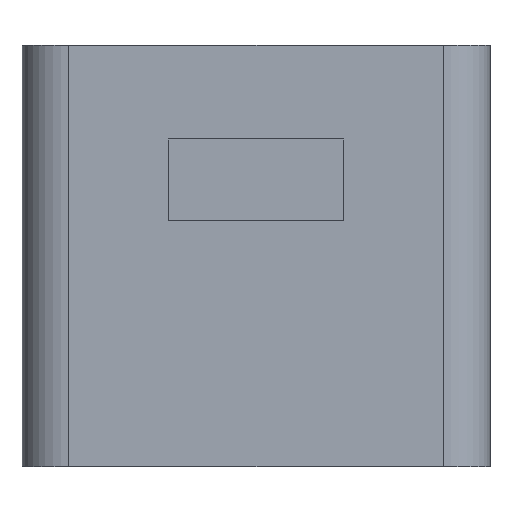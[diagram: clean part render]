
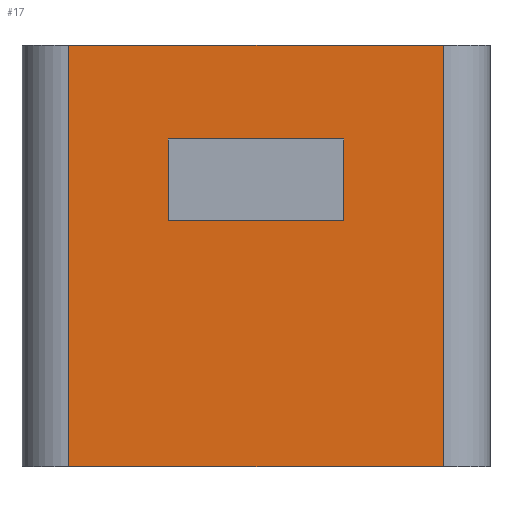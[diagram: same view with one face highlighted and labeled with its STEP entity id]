
A CAD part, left-side view. The second image highlights one B-rep face of the part: STEP entity #17.
In plain terms, the highlighted planar face has unit normal (-1, 0, 0).
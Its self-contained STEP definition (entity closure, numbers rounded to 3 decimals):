
#17 = ADVANCED_FACE('',(#18,#137),#32,.F.);
#18 = FACE_BOUND('',#19,.F.);
#19 = EDGE_LOOP('',(#20,#55,#83,#111));
#20 = ORIENTED_EDGE('',*,*,#21,.F.);
#21 = EDGE_CURVE('',#22,#24,#26,.T.);
#22 = VERTEX_POINT('',#23);
#23 = CARTESIAN_POINT('',(-21.,-8.,9.));
#24 = VERTEX_POINT('',#25);
#25 = CARTESIAN_POINT('',(-21.,8.,9.));
#26 = SURFACE_CURVE('',#27,(#31,#43),.PCURVE_S1.);
#27 = LINE('',#28,#29);
#28 = CARTESIAN_POINT('',(-21.,-10.,9.));
#29 = VECTOR('',#30,1.);
#30 = DIRECTION('',(-0.,1.,0.));
#31 = PCURVE('',#32,#37);
#32 = PLANE('',#33);
#33 = AXIS2_PLACEMENT_3D('',#34,#35,#36);
#34 = CARTESIAN_POINT('',(-21.,-10.,-9.));
#35 = DIRECTION('',(1.,0.,-0.));
#36 = DIRECTION('',(0.,0.,1.));
#37 = DEFINITIONAL_REPRESENTATION('',(#38),#42);
#38 = LINE('',#39,#40);
#39 = CARTESIAN_POINT('',(18.,0.));
#40 = VECTOR('',#41,1.);
#41 = DIRECTION('',(0.,-1.));
#42 = ( GEOMETRIC_REPRESENTATION_CONTEXT(2) 
PARAMETRIC_REPRESENTATION_CONTEXT() REPRESENTATION_CONTEXT('2D SPACE',''
  ) );
#43 = PCURVE('',#44,#49);
#44 = PLANE('',#45);
#45 = AXIS2_PLACEMENT_3D('',#46,#47,#48);
#46 = CARTESIAN_POINT('',(-21.,-10.,9.));
#47 = DIRECTION('',(0.,0.,1.));
#48 = DIRECTION('',(1.,0.,-0.));
#49 = DEFINITIONAL_REPRESENTATION('',(#50),#54);
#50 = LINE('',#51,#52);
#51 = CARTESIAN_POINT('',(0.,0.));
#52 = VECTOR('',#53,1.);
#53 = DIRECTION('',(0.,1.));
#54 = ( GEOMETRIC_REPRESENTATION_CONTEXT(2) 
PARAMETRIC_REPRESENTATION_CONTEXT() REPRESENTATION_CONTEXT('2D SPACE',''
  ) );
#55 = ORIENTED_EDGE('',*,*,#56,.F.);
#56 = EDGE_CURVE('',#57,#22,#59,.T.);
#57 = VERTEX_POINT('',#58);
#58 = CARTESIAN_POINT('',(-21.,-8.,-9.));
#59 = SURFACE_CURVE('',#60,(#64,#71),.PCURVE_S1.);
#60 = LINE('',#61,#62);
#61 = CARTESIAN_POINT('',(-21.,-8.,-9.));
#62 = VECTOR('',#63,1.);
#63 = DIRECTION('',(0.,0.,1.));
#64 = PCURVE('',#32,#65);
#65 = DEFINITIONAL_REPRESENTATION('',(#66),#70);
#66 = LINE('',#67,#68);
#67 = CARTESIAN_POINT('',(0.,-2.));
#68 = VECTOR('',#69,1.);
#69 = DIRECTION('',(1.,0.));
#70 = ( GEOMETRIC_REPRESENTATION_CONTEXT(2) 
PARAMETRIC_REPRESENTATION_CONTEXT() REPRESENTATION_CONTEXT('2D SPACE',''
  ) );
#71 = PCURVE('',#72,#77);
#72 = CYLINDRICAL_SURFACE('',#73,2.);
#73 = AXIS2_PLACEMENT_3D('',#74,#75,#76);
#74 = CARTESIAN_POINT('',(-19.,-8.,-9.));
#75 = DIRECTION('',(0.,0.,1.));
#76 = DIRECTION('',(-1.,-0.,0.));
#77 = DEFINITIONAL_REPRESENTATION('',(#78),#82);
#78 = LINE('',#79,#80);
#79 = CARTESIAN_POINT('',(0.,0.));
#80 = VECTOR('',#81,1.);
#81 = DIRECTION('',(0.,1.));
#82 = ( GEOMETRIC_REPRESENTATION_CONTEXT(2) 
PARAMETRIC_REPRESENTATION_CONTEXT() REPRESENTATION_CONTEXT('2D SPACE',''
  ) );
#83 = ORIENTED_EDGE('',*,*,#84,.T.);
#84 = EDGE_CURVE('',#57,#85,#87,.T.);
#85 = VERTEX_POINT('',#86);
#86 = CARTESIAN_POINT('',(-21.,8.,-9.));
#87 = SURFACE_CURVE('',#88,(#92,#99),.PCURVE_S1.);
#88 = LINE('',#89,#90);
#89 = CARTESIAN_POINT('',(-21.,-10.,-9.));
#90 = VECTOR('',#91,1.);
#91 = DIRECTION('',(-0.,1.,0.));
#92 = PCURVE('',#32,#93);
#93 = DEFINITIONAL_REPRESENTATION('',(#94),#98);
#94 = LINE('',#95,#96);
#95 = CARTESIAN_POINT('',(0.,0.));
#96 = VECTOR('',#97,1.);
#97 = DIRECTION('',(0.,-1.));
#98 = ( GEOMETRIC_REPRESENTATION_CONTEXT(2) 
PARAMETRIC_REPRESENTATION_CONTEXT() REPRESENTATION_CONTEXT('2D SPACE',''
  ) );
#99 = PCURVE('',#100,#105);
#100 = PLANE('',#101);
#101 = AXIS2_PLACEMENT_3D('',#102,#103,#104);
#102 = CARTESIAN_POINT('',(-21.,-10.,-9.));
#103 = DIRECTION('',(0.,0.,1.));
#104 = DIRECTION('',(1.,0.,-0.));
#105 = DEFINITIONAL_REPRESENTATION('',(#106),#110);
#106 = LINE('',#107,#108);
#107 = CARTESIAN_POINT('',(0.,0.));
#108 = VECTOR('',#109,1.);
#109 = DIRECTION('',(0.,1.));
#110 = ( GEOMETRIC_REPRESENTATION_CONTEXT(2) 
PARAMETRIC_REPRESENTATION_CONTEXT() REPRESENTATION_CONTEXT('2D SPACE',''
  ) );
#111 = ORIENTED_EDGE('',*,*,#112,.T.);
#112 = EDGE_CURVE('',#85,#24,#113,.T.);
#113 = SURFACE_CURVE('',#114,(#118,#125),.PCURVE_S1.);
#114 = LINE('',#115,#116);
#115 = CARTESIAN_POINT('',(-21.,8.,-9.));
#116 = VECTOR('',#117,1.);
#117 = DIRECTION('',(0.,0.,1.));
#118 = PCURVE('',#32,#119);
#119 = DEFINITIONAL_REPRESENTATION('',(#120),#124);
#120 = LINE('',#121,#122);
#121 = CARTESIAN_POINT('',(0.,-18.));
#122 = VECTOR('',#123,1.);
#123 = DIRECTION('',(1.,0.));
#124 = ( GEOMETRIC_REPRESENTATION_CONTEXT(2) 
PARAMETRIC_REPRESENTATION_CONTEXT() REPRESENTATION_CONTEXT('2D SPACE',''
  ) );
#125 = PCURVE('',#126,#131);
#126 = CYLINDRICAL_SURFACE('',#127,2.);
#127 = AXIS2_PLACEMENT_3D('',#128,#129,#130);
#128 = CARTESIAN_POINT('',(-19.,8.,-9.));
#129 = DIRECTION('',(0.,0.,1.));
#130 = DIRECTION('',(-1.,-0.,0.));
#131 = DEFINITIONAL_REPRESENTATION('',(#132),#136);
#132 = LINE('',#133,#134);
#133 = CARTESIAN_POINT('',(-0.,0.));
#134 = VECTOR('',#135,1.);
#135 = DIRECTION('',(-0.,1.));
#136 = ( GEOMETRIC_REPRESENTATION_CONTEXT(2) 
PARAMETRIC_REPRESENTATION_CONTEXT() REPRESENTATION_CONTEXT('2D SPACE',''
  ) );
#137 = FACE_BOUND('',#138,.F.);
#138 = EDGE_LOOP('',(#139,#169,#197,#225));
#139 = ORIENTED_EDGE('',*,*,#140,.T.);
#140 = EDGE_CURVE('',#141,#143,#145,.T.);
#141 = VERTEX_POINT('',#142);
#142 = CARTESIAN_POINT('',(-21.,-3.75,1.5));
#143 = VERTEX_POINT('',#144);
#144 = CARTESIAN_POINT('',(-21.,-3.75,5.));
#145 = SURFACE_CURVE('',#146,(#150,#157),.PCURVE_S1.);
#146 = LINE('',#147,#148);
#147 = CARTESIAN_POINT('',(-21.,-3.75,1.5));
#148 = VECTOR('',#149,1.);
#149 = DIRECTION('',(0.,0.,1.));
#150 = PCURVE('',#32,#151);
#151 = DEFINITIONAL_REPRESENTATION('',(#152),#156);
#152 = LINE('',#153,#154);
#153 = CARTESIAN_POINT('',(10.5,-6.25));
#154 = VECTOR('',#155,1.);
#155 = DIRECTION('',(1.,0.));
#156 = ( GEOMETRIC_REPRESENTATION_CONTEXT(2) 
PARAMETRIC_REPRESENTATION_CONTEXT() REPRESENTATION_CONTEXT('2D SPACE',''
  ) );
#157 = PCURVE('',#158,#163);
#158 = PLANE('',#159);
#159 = AXIS2_PLACEMENT_3D('',#160,#161,#162);
#160 = CARTESIAN_POINT('',(-21.,-3.75,1.5));
#161 = DIRECTION('',(0.,1.,0.));
#162 = DIRECTION('',(0.,0.,1.));
#163 = DEFINITIONAL_REPRESENTATION('',(#164),#168);
#164 = LINE('',#165,#166);
#165 = CARTESIAN_POINT('',(0.,0.));
#166 = VECTOR('',#167,1.);
#167 = DIRECTION('',(1.,0.));
#168 = ( GEOMETRIC_REPRESENTATION_CONTEXT(2) 
PARAMETRIC_REPRESENTATION_CONTEXT() REPRESENTATION_CONTEXT('2D SPACE',''
  ) );
#169 = ORIENTED_EDGE('',*,*,#170,.T.);
#170 = EDGE_CURVE('',#143,#171,#173,.T.);
#171 = VERTEX_POINT('',#172);
#172 = CARTESIAN_POINT('',(-21.,3.75,5.));
#173 = SURFACE_CURVE('',#174,(#178,#185),.PCURVE_S1.);
#174 = LINE('',#175,#176);
#175 = CARTESIAN_POINT('',(-21.,-3.75,5.));
#176 = VECTOR('',#177,1.);
#177 = DIRECTION('',(0.,1.,0.));
#178 = PCURVE('',#32,#179);
#179 = DEFINITIONAL_REPRESENTATION('',(#180),#184);
#180 = LINE('',#181,#182);
#181 = CARTESIAN_POINT('',(14.,-6.25));
#182 = VECTOR('',#183,1.);
#183 = DIRECTION('',(0.,-1.));
#184 = ( GEOMETRIC_REPRESENTATION_CONTEXT(2) 
PARAMETRIC_REPRESENTATION_CONTEXT() REPRESENTATION_CONTEXT('2D SPACE',''
  ) );
#185 = PCURVE('',#186,#191);
#186 = PLANE('',#187);
#187 = AXIS2_PLACEMENT_3D('',#188,#189,#190);
#188 = CARTESIAN_POINT('',(-21.,-3.75,5.));
#189 = DIRECTION('',(0.,0.,1.));
#190 = DIRECTION('',(1.,0.,0.));
#191 = DEFINITIONAL_REPRESENTATION('',(#192),#196);
#192 = LINE('',#193,#194);
#193 = CARTESIAN_POINT('',(0.,0.));
#194 = VECTOR('',#195,1.);
#195 = DIRECTION('',(0.,1.));
#196 = ( GEOMETRIC_REPRESENTATION_CONTEXT(2) 
PARAMETRIC_REPRESENTATION_CONTEXT() REPRESENTATION_CONTEXT('2D SPACE',''
  ) );
#197 = ORIENTED_EDGE('',*,*,#198,.F.);
#198 = EDGE_CURVE('',#199,#171,#201,.T.);
#199 = VERTEX_POINT('',#200);
#200 = CARTESIAN_POINT('',(-21.,3.75,1.5));
#201 = SURFACE_CURVE('',#202,(#206,#213),.PCURVE_S1.);
#202 = LINE('',#203,#204);
#203 = CARTESIAN_POINT('',(-21.,3.75,1.5));
#204 = VECTOR('',#205,1.);
#205 = DIRECTION('',(0.,0.,1.));
#206 = PCURVE('',#32,#207);
#207 = DEFINITIONAL_REPRESENTATION('',(#208),#212);
#208 = LINE('',#209,#210);
#209 = CARTESIAN_POINT('',(10.5,-13.75));
#210 = VECTOR('',#211,1.);
#211 = DIRECTION('',(1.,0.));
#212 = ( GEOMETRIC_REPRESENTATION_CONTEXT(2) 
PARAMETRIC_REPRESENTATION_CONTEXT() REPRESENTATION_CONTEXT('2D SPACE',''
  ) );
#213 = PCURVE('',#214,#219);
#214 = PLANE('',#215);
#215 = AXIS2_PLACEMENT_3D('',#216,#217,#218);
#216 = CARTESIAN_POINT('',(-21.,3.75,1.5));
#217 = DIRECTION('',(0.,1.,0.));
#218 = DIRECTION('',(0.,0.,1.));
#219 = DEFINITIONAL_REPRESENTATION('',(#220),#224);
#220 = LINE('',#221,#222);
#221 = CARTESIAN_POINT('',(0.,0.));
#222 = VECTOR('',#223,1.);
#223 = DIRECTION('',(1.,0.));
#224 = ( GEOMETRIC_REPRESENTATION_CONTEXT(2) 
PARAMETRIC_REPRESENTATION_CONTEXT() REPRESENTATION_CONTEXT('2D SPACE',''
  ) );
#225 = ORIENTED_EDGE('',*,*,#226,.F.);
#226 = EDGE_CURVE('',#141,#199,#227,.T.);
#227 = SURFACE_CURVE('',#228,(#232,#239),.PCURVE_S1.);
#228 = LINE('',#229,#230);
#229 = CARTESIAN_POINT('',(-21.,-3.75,1.5));
#230 = VECTOR('',#231,1.);
#231 = DIRECTION('',(0.,1.,0.));
#232 = PCURVE('',#32,#233);
#233 = DEFINITIONAL_REPRESENTATION('',(#234),#238);
#234 = LINE('',#235,#236);
#235 = CARTESIAN_POINT('',(10.5,-6.25));
#236 = VECTOR('',#237,1.);
#237 = DIRECTION('',(0.,-1.));
#238 = ( GEOMETRIC_REPRESENTATION_CONTEXT(2) 
PARAMETRIC_REPRESENTATION_CONTEXT() REPRESENTATION_CONTEXT('2D SPACE',''
  ) );
#239 = PCURVE('',#240,#245);
#240 = PLANE('',#241);
#241 = AXIS2_PLACEMENT_3D('',#242,#243,#244);
#242 = CARTESIAN_POINT('',(-21.,-3.75,1.5));
#243 = DIRECTION('',(0.,0.,1.));
#244 = DIRECTION('',(1.,0.,0.));
#245 = DEFINITIONAL_REPRESENTATION('',(#246),#250);
#246 = LINE('',#247,#248);
#247 = CARTESIAN_POINT('',(0.,0.));
#248 = VECTOR('',#249,1.);
#249 = DIRECTION('',(0.,1.));
#250 = ( GEOMETRIC_REPRESENTATION_CONTEXT(2) 
PARAMETRIC_REPRESENTATION_CONTEXT() REPRESENTATION_CONTEXT('2D SPACE',''
  ) );
